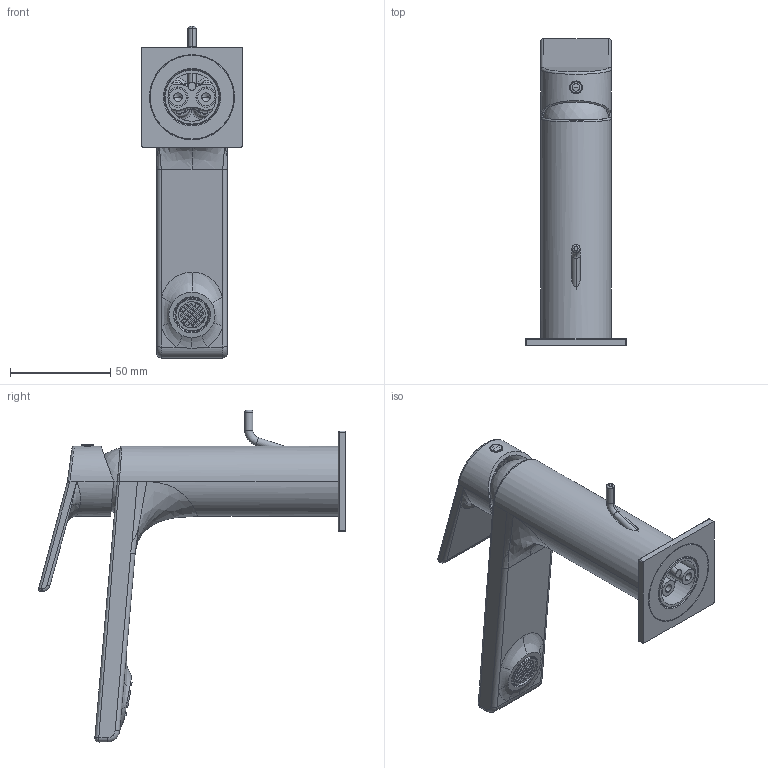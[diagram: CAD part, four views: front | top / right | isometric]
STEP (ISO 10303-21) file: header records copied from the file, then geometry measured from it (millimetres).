
FILE_DESCRIPTION((''),'2;1');
FILE_NAME('74054_SW0001','2025-07-09T16:03:02',('volponeff'),(''),'CREO PARAMETRIC BY PTC INC, 2022014','CREO PARAMETRIC BY PTC INC, 2022014','');
FILE_SCHEMA(('CONFIG_CONTROL_DESIGN'));
Products named in the file (1): 74054_SW0001
Bounding box: 50 x 152.87 x 165.47 mm (x, y, z)
Volume: 116009.7 mm3; surface area: 79846.1 mm2
Topology: 2 solids, 2 shells, 1418 faces, 3662 edges, 2204 vertices
Faces by surface type: cylinder 450, plane 425, bspline 237, torus 125, sphere 93, cone 88
Entity records: 81492 total; most frequent: CARTESIAN_POINT 48957, ORIENTED_EDGE 7174, DIRECTION 6259, EDGE_CURVE 3587, AXIS2_PLACEMENT_3D 2413, VERTEX_POINT 2204, EDGE_LOOP 1579, VECTOR 1433
